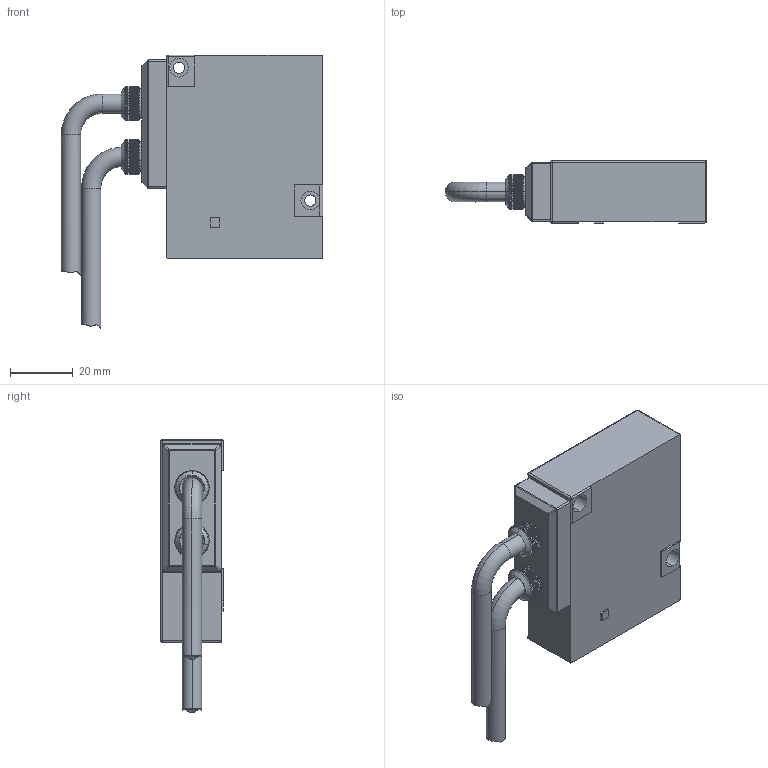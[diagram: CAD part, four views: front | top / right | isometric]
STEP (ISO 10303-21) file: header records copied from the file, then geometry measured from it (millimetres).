
FILE_DESCRIPTION (( 'STEP AP203' ), '1' );
FILE_NAME ('RF603_2CG.STEP', '2011-03-17T08:14:48', ( 'Ñåðãåé Ì' ), ( '' ), 'SwSTEP 2.0', 'SolidWorks 2009', '' );
FILE_SCHEMA (( 'CONFIG_CONTROL_DESIGN' ));
Length unit declared in the file: millimetre
Products named in the file (6): RF605.00.026; RF603.00.81; RF603.00.82; ISO 14581_Ì2õ4_Default; RF603.00.04; RF603_2CG
Assembly tree (9 placements, depth 2):
  RF603_2CG
    RF603.00.04
    ISO 14581_Ì2õ4_Default  x3
    RF605.00.026  x2
    RF603.00.81  x2
    RF603.00.82
Bounding box: 83.7 x 20 x 87.5 mm (x, y, z)
Volume: 70264.5 mm3; surface area: 18497.4 mm2
Topology: 9 solids, 9 shells, 641 faces, 1720 edges, 1098 vertices
Faces by surface type: plane 346, cylinder 222, cone 46, sphere 13, torus 12, bspline 2
Entity records: 12788 total; most frequent: CARTESIAN_POINT 2853, ORIENTED_EDGE 1990, DIRECTION 1858, EDGE_CURVE 995, AXIS2_PLACEMENT_3D 713, VERTEX_POINT 636, LINE 432, VECTOR 432
